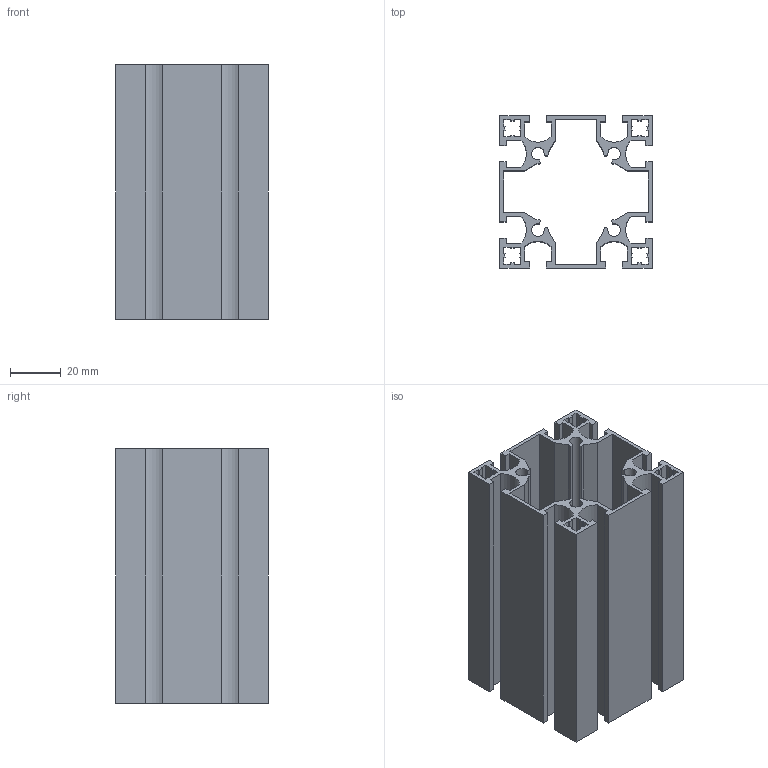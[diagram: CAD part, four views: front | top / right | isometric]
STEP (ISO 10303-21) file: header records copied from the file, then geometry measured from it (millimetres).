
FILE_DESCRIPTION(/* description */ ('Unknown'),/* implementation_level */ '2;1');
FILE_NAME(/* name */ 'NM6060A',/* time_stamp */ '2026-08-31T11:20:15+08:00',/* author */ ('Unknown'),/* organization */ ('Unknown'),/* preprocessor_version */ 'ST-DEVELOPER v16.7',/* originating_system */ 'DEX',/* authorisation */ $);
FILE_SCHEMA (('AUTOMOTIVE_DESIGN {1 0 10303 214 3 1 1}'));
Length unit declared in the file: millimetre
Products named in the file (1): 6060A-
Bounding box: 60 x 60 x 100 mm (x, y, z)
Volume: 78114 mm3; surface area: 83834.4 mm2
Topology: 1 solids, 1 shells, 190 faces, 564 edges, 376 vertices
Faces by surface type: plane 154, cylinder 36
Entity records: 6350 total; most frequent: CARTESIAN_POINT 1131, ORIENTED_EDGE 1128, DIRECTION 1018, EDGE_CURVE 564, LINE 492, VECTOR 492, VERTEX_POINT 376, AXIS2_PLACEMENT_3D 263
